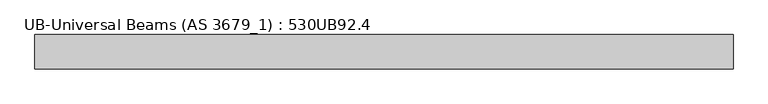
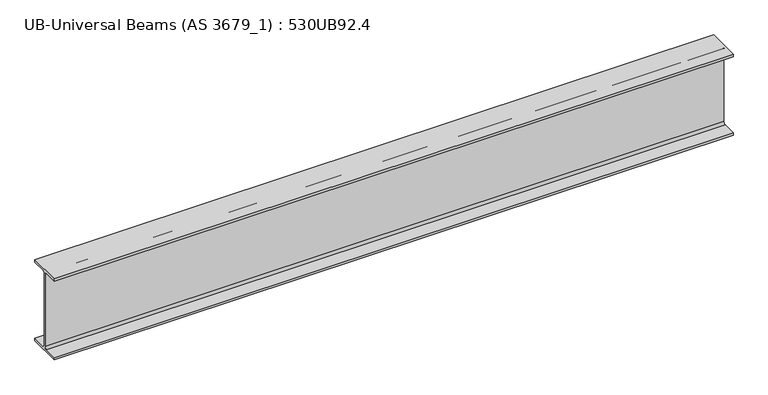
"""IFC4 building model written with IfcOpenShell, lengths in millimetres: beam geometry, UB-Universal Beams (AS 3679_1) : 530UB92.4."""

import ifcopenshell
import ifcopenshell.guid

model = None  # the IFC model being written
_history = None  # IfcOwnerHistory: only IFC2X3 demands one
_inside = {}  # id of a spatial element -> (the spatial element, [elements in it])
_under = {}  # id of a project, library or spatial element -> (it, [spatial elements below it])
_declared = {}  # id of a project -> (the project, [libraries it declares])
_typed = {}  # id of a type object -> (the type object, [elements of that type])
_made_of = {}  # id of a material, layer set ... -> (it, [elements and type objects made of it])


def new_model(schema):
    """Start an empty IFC model of exactly this schema.

    Asked for "IFC4X3", IfcOpenShell would pick the latest addendum, in which some entities
    have other attributes; the version numbers below select the first issue.
    IFC2X3 requires an IfcOwnerHistory on every rooted entity: one is made here for all.
    """
    global model, _history
    if schema == "IFC4X3":
        model = ifcopenshell.file(schema_version=(4, 3, 0, 0))
    else:
        model = ifcopenshell.file(schema=schema)
    _inside.clear()
    _under.clear()
    _declared.clear()
    _typed.clear()
    _made_of.clear()
    _history = None
    if model.schema == "IFC2X3":
        org = make("IfcOrganization", Name="unknown")
        user = make(
            "IfcPersonAndOrganization",
            ThePerson=make("IfcPerson", FamilyName="unknown"),
            TheOrganization=org,
        )
        app = make(
            "IfcApplication",
            ApplicationDeveloper=org,
            Version="unknown",
            ApplicationFullName="unknown",
            ApplicationIdentifier="unknown",
        )
        _history = make(
            "IfcOwnerHistory",
            OwningUser=user,
            OwningApplication=app,
            ChangeAction="ADDED",
            CreationDate=0,
        )
    return model


def make(cls, **values):
    """One entity of the class cls with the attributes given. An attribute that is None is left unset."""
    return model.create_entity(
        cls, **{name: value for name, value in values.items() if value is not None}
    )


def rooted(cls, **values):
    """An entity with a GlobalId (a new one), such as an element, a storey or a relation."""
    return make(cls, GlobalId=ifcopenshell.guid.new(), OwnerHistory=_history, **values)


def si_unit(unit_type, name, prefix=None):
    """IfcSIUnit, for example si_unit("LENGTHUNIT", "METRE", prefix="MILLI")."""
    return make("IfcSIUnit", UnitType=unit_type, Prefix=prefix, Name=name)


def assignment(units):
    """IfcUnitAssignment: the units of a project."""
    return None if units is None else make("IfcUnitAssignment", Units=units)


def point(xyz):
    """IfcCartesianPoint."""
    return None if xyz is None else make("IfcCartesianPoint", Coordinates=xyz)


def direction(xyz):
    """IfcDirection."""
    return None if xyz is None else make("IfcDirection", DirectionRatios=xyz)


def frame(location, z_axis=None, x_axis=None):
    """IfcAxis2Placement3D, a coordinate frame: its origin and axes. An axis left out is left unset."""
    return make(
        "IfcAxis2Placement3D",
        Location=point(location),
        Axis=direction(z_axis),
        RefDirection=direction(x_axis),
    )


def frame_2d(location, x_axis=None):
    """IfcAxis2Placement2D, a coordinate frame in the plane: its origin and x axis."""
    return make(
        "IfcAxis2Placement2D", Location=point(location), RefDirection=direction(x_axis)
    )


def origin():
    """The frame at (0, 0, 0) with its axes left unset."""
    return frame((0.0, 0.0, 0.0))


def place(relative_to, where):
    """IfcLocalPlacement: puts the frame where relative to a parent placement (None: the world)."""
    return make(
        "IfcLocalPlacement", PlacementRelTo=relative_to, RelativePlacement=where
    )


def context(
    kind, dimensions, precision=None, world=None, true_north=None, identifier=None
):
    """IfcGeometricRepresentationContext, for example the 3D "Model" context."""
    return make(
        "IfcGeometricRepresentationContext",
        ContextIdentifier=identifier,
        ContextType=kind,
        CoordinateSpaceDimension=dimensions,
        Precision=precision,
        WorldCoordinateSystem=world,
        TrueNorth=true_north,
    )


def project(units=None, contexts=None):
    """IfcProject with its units and contexts."""
    return rooted(
        "IfcProject",
        Name="project",
        RepresentationContexts=contexts,
        UnitsInContext=assignment(units),
    )


def spatial(cls, under=None, at=None, **own):
    """A site, building, storey or space (cls), placed at a placement, below another one or the project."""
    s = rooted(cls, ObjectPlacement=at, **own)
    if under is not None:
        _under.setdefault(under.id(), (under, []))[1].append(s)
    return s


def polyline(points):
    """IfcPolyline through the points."""
    return make("IfcPolyline", Points=[point(p) for p in points])


def circle_curve(where, radius):
    """IfcCircle in the frame where."""
    return make("IfcCircle", Position=where, Radius=radius)


def trimmed(basis, trim1, trim2, sense, master):
    """IfcTrimmedCurve: the piece of a basis curve between two trims."""
    return make(
        "IfcTrimmedCurve",
        BasisCurve=basis,
        Trim1=trim1,
        Trim2=trim2,
        SenseAgreement=sense,
        MasterRepresentation=master,
    )


def segment(curve, same_sense, transition):
    """IfcCompositeCurveSegment."""
    return make(
        "IfcCompositeCurveSegment",
        Transition=transition,
        SameSense=same_sense,
        ParentCurve=curve,
    )


def composite_curve(segments, self_intersect=None):
    """IfcCompositeCurve: segments joined end to end."""
    return make("IfcCompositeCurve", Segments=segments, SelfIntersect=self_intersect)


def outline(outer, holes=None, kind="AREA"):
    """IfcArbitraryClosedProfileDef: a profile drawn as a closed curve; with holes, ...WithVoids."""
    if holes is None:
        return make("IfcArbitraryClosedProfileDef", ProfileType=kind, OuterCurve=outer)
    return make(
        "IfcArbitraryProfileDefWithVoids",
        ProfileType=kind,
        OuterCurve=outer,
        InnerCurves=holes,
    )


def extrude(swept, where, along, depth):
    """IfcExtrudedAreaSolid: the profile swept, set in the frame where, extruded along a direction by depth."""
    return make(
        "IfcExtrudedAreaSolid",
        SweptArea=swept,
        Position=where,
        ExtrudedDirection=direction(along),
        Depth=depth,
    )


def shape(context_of_items, identifier, shape_type, items):
    """IfcShapeRepresentation: the items that make up one representation, for example the "Body"."""
    return make(
        "IfcShapeRepresentation",
        ContextOfItems=context_of_items,
        RepresentationIdentifier=identifier,
        RepresentationType=shape_type,
        Items=items,
    )


def source(mapping_origin, context_of_items, identifier, shape_type, items):
    """IfcRepresentationMap: a shape defined once, which mapped items show again and again."""
    return make(
        "IfcRepresentationMap",
        MappingOrigin=mapping_origin,
        MappedRepresentation=shape(context_of_items, identifier, shape_type, items),
    )


def transform(
    local_origin,
    x_axis=None,
    y_axis=None,
    z_axis=None,
    scale=None,
    scale2=None,
    scale3=None,
    uniform=True,
):
    """IfcCartesianTransformationOperator3D, or its non-uniform kind. x_axis, y_axis, z_axis: its Axis1, 2, 3."""
    if uniform:
        return make(
            "IfcCartesianTransformationOperator3D",
            Axis1=direction(x_axis),
            Axis2=direction(y_axis),
            LocalOrigin=point(local_origin),
            Scale=scale,
            Axis3=direction(z_axis),
        )
    return make(
        "IfcCartesianTransformationOperator3DnonUniform",
        Axis1=direction(x_axis),
        Axis2=direction(y_axis),
        LocalOrigin=point(local_origin),
        Scale=scale,
        Axis3=direction(z_axis),
        Scale2=scale2,
        Scale3=scale3,
    )


def mapped(mapping_source, mapping_target):
    """IfcMappedItem: shows the shape of a source again, moved by a transform."""
    return make(
        "IfcMappedItem", MappingSource=mapping_source, MappingTarget=mapping_target
    )


def made_of(thing, what):
    """Note that an element or type object is made of a material, layer set ...; save() writes the relation."""
    if what is not None:
        _made_of.setdefault(what.id(), (what, []))[1].append(thing)
    return thing


def element(
    cls,
    number,
    at=None,
    inside=None,
    cuts=None,
    type_object=None,
    material=None,
    context=None,
    identifier="Body",
    shape_type=None,
    held_by="IfcProductDefinitionShape",
    body=None,
    shapes=None,
    **own,
):
    """One element of the class cls, such as IfcWall. Its Tag is "e" and its number.

    at: its placement. inside: the storey or other place that contains it. cuts: it is an
    opening in that element (IfcRelVoidsElement). A single representation is given by context,
    identifier, shape_type and body (its items); several are given by shapes. held_by: the class
    of the entity that holds the representations. save() writes the other relations.
    """
    e = rooted(cls, Tag="e%d" % number, ObjectPlacement=at, **own)
    if body is not None:
        shapes = [shape(context, identifier, shape_type, body)]
    if shapes is not None:
        e.Representation = make(held_by, Representations=shapes)
    if inside is not None:
        _inside.setdefault(inside.id(), (inside, []))[1].append(e)
    if cuts is not None:
        rooted(
            "IfcRelVoidsElement", RelatingBuildingElement=cuts, RelatedOpeningElement=e
        )
    if type_object is not None:
        _typed.setdefault(type_object.id(), (type_object, []))[1].append(e)
    return made_of(e, material)


def aggregate(whole, parts):
    """IfcRelAggregates: a whole, such as a stair, and the parts it consists of."""
    return rooted("IfcRelAggregates", RelatingObject=whole, RelatedObjects=parts)


def save(model, path):
    """Write the relations noted so far, then the file.

    IfcRelAggregates (storeys below a building ...), IfcRelContainedInSpatialStructure (elements
    in a storey), IfcRelDefinesByType, IfcRelAssociatesMaterial and IfcRelDeclares: one each for
    every whole, place, type object, material and project.
    """
    for whole, parts in _under.values():
        aggregate(whole, parts)
    for where, things in _inside.values():
        rooted(
            "IfcRelContainedInSpatialStructure",
            RelatedElements=things,
            RelatingStructure=where,
        )
    for kind, things in _typed.values():
        rooted("IfcRelDefinesByType", RelatedObjects=things, RelatingType=kind)
    for what, things in _made_of.values():
        rooted("IfcRelAssociatesMaterial", RelatedObjects=things, RelatingMaterial=what)
    for by, libraries in _declared.values():
        rooted("IfcRelDeclares", RelatingContext=by, RelatedDefinitions=libraries)
    model.write(path)


def ub_universal_beams_as_3679_1_530ub92_4_2c95696b(model_context):
    return source(origin(), model_context, "Body", "SweptSolid", [
        extrude(outline(composite_curve([segment(polyline([(104.5, -250.9), (104.5, -266.5), (-104.5, -266.5), (-104.5, -250.9), (-19.1, -250.9)]), True, "CONTINUOUS"), segment(trimmed(circle_curve(frame_2d((-19.1, -236.9)), 14.0), [point((-19.1, -250.9))], [point((-5.1, -236.9))], True, "CARTESIAN"), True, "CONTINUOUS"), segment(polyline([(-5.1, -236.9), (-5.1, 236.9)]), True, "CONTINUOUS"), segment(trimmed(circle_curve(frame_2d((-19.1, 236.9)), 14.0), [point((-5.1, 236.9))], [point((-19.1, 250.9))], True, "CARTESIAN"), True, "CONTINUOUS"), segment(polyline([(-19.1, 250.9), (-104.5, 250.9), (-104.5, 266.5), (104.5, 266.5), (104.5, 250.9), (19.1, 250.9)]), True, "CONTINUOUS"), segment(trimmed(circle_curve(frame_2d((19.1, 236.9)), 14.0), [point((19.1, 250.9))], [point((5.1, 236.9))], True, "CARTESIAN"), True, "CONTINUOUS"), segment(polyline([(5.1, 236.9), (5.1, -236.9)]), True, "CONTINUOUS"), segment(trimmed(circle_curve(frame_2d((19.1, -236.9)), 14.0), [point((5.1, -236.9))], [point((19.1, -250.9))], True, "CARTESIAN"), True, "CONTINUOUS"), segment(polyline([(19.1, -250.9), (104.5, -250.9)]), True, "CONTINUOUS")], self_intersect=False)), frame((-2076.6, 0.0, 0.0), z_axis=(1.0, 0.0, 0.0), x_axis=(0.0, 1.0, 0.0)), (0.0, 0.0, 1.0), 4227.8),
    ])


if __name__ == "__main__":
    model = new_model("IFC4")
    model_context = context("Model", 3, world=origin())
    ifc_project = project(units=[si_unit("LENGTHUNIT", "METRE", prefix="MILLI")], contexts=[model_context])
    site = spatial("IfcSite", under=ifc_project)
    building = spatial("IfcBuilding", under=site)
    placement = place(None, origin())
    ub_universal_beams_as_3679_1_530ub92_4_shape = ub_universal_beams_as_3679_1_530ub92_4_2c95696b(model_context)
    element("IfcBeam", 1, ObjectType="UB-Universal Beams (AS 3679_1) : 530UB92.4", at=placement, inside=building, context=model_context, shape_type="MappedRepresentation", body=[
        mapped(ub_universal_beams_as_3679_1_530ub92_4_shape, transform((0.0, 0.0, 0.0), x_axis=(1.0, 0.0, 0.0), y_axis=(0.0, 1.0, 0.0), z_axis=(0.0, 0.0, 1.0))),
    ])
    save(model, "model.ifc")
